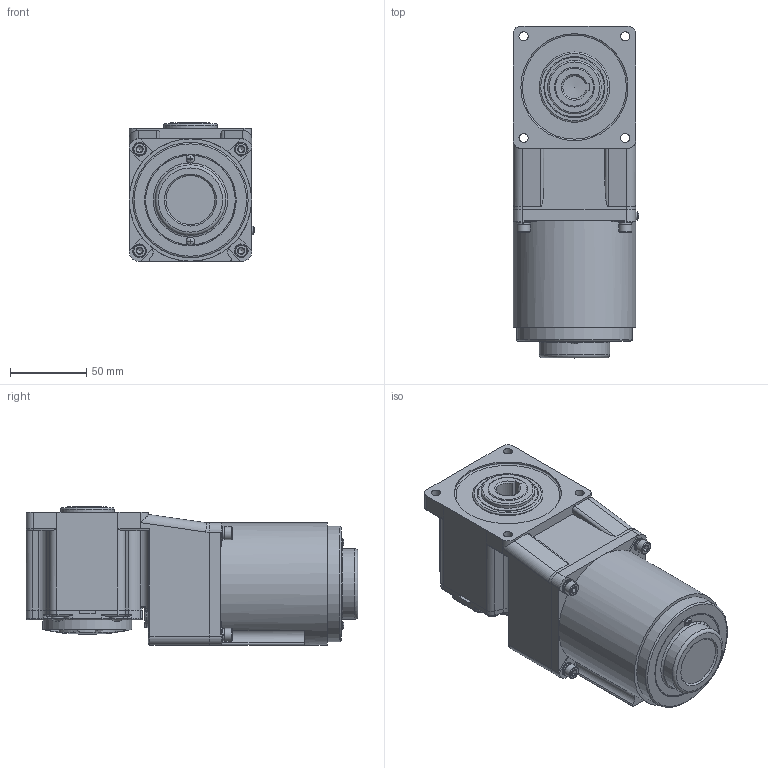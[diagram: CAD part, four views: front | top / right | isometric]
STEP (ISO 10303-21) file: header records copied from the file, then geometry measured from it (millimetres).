
FILE_DESCRIPTION(/* description */ (''),/* implementation_level */ '2;1');
FILE_NAME(/* name */ '80+中空直角-调速-25W.stp',/* time_stamp */ '2022-09-27T10:28:11+08:00',/* author */ (''),/* organization */ (''),/* preprocessor_version */ 'ST-DEVELOPER v16.7',/* originating_system */ 'SIEMENS PLM Software NX 1899',/* authorisation */ '');
FILE_SCHEMA (('AP203_CONFIGURATION_CONTROLLED_3D_DESIGN_OF_MECHANICAL_PARTS_AND_ASSEMBLIES_MIM_LF { 1 0 10303 403 2 1 2}'));
Length unit declared in the file: millimetre
Products named in the file (1): yf1815905F60ughf
Bounding box: 82.09 x 217 x 90.5 mm (x, y, z)
Volume: 1130361.5 mm3; surface area: 116937.3 mm2
Topology: 16 solids, 16 shells, 706 faces, 1642 edges, 1005 vertices
Faces by surface type: plane 362, cylinder 207, torus 62, cone 49, bspline 14, sphere 12
Full cylindrical faces by diameter (mm): 2.5 x2, 3.5 x2, 4.2 x4, 4.826 x4, 5 x8, 5.3 x4, 5.6 x3, 6 x8, 8 x4, 8.5 x4, 9 x4, 25 x1, 26 x2, 35 x1, 40 x2, 40.5 x1, 46 x2, 52 x1, 52.5 x1, 56 x1, 58 x1, 58.6 x1, 60 x1, 70 x1, 75.5 x1, 76 x2, 80 x1
Entity records: 21168 total; most frequent: CARTESIAN_POINT 4452, DIRECTION 3308, ORIENTED_EDGE 2916, EDGE_CURVE 1458, AXIS2_PLACEMENT_3D 1313, VERTEX_POINT 955, EDGE_LOOP 899, ADVANCED_FACE 706
